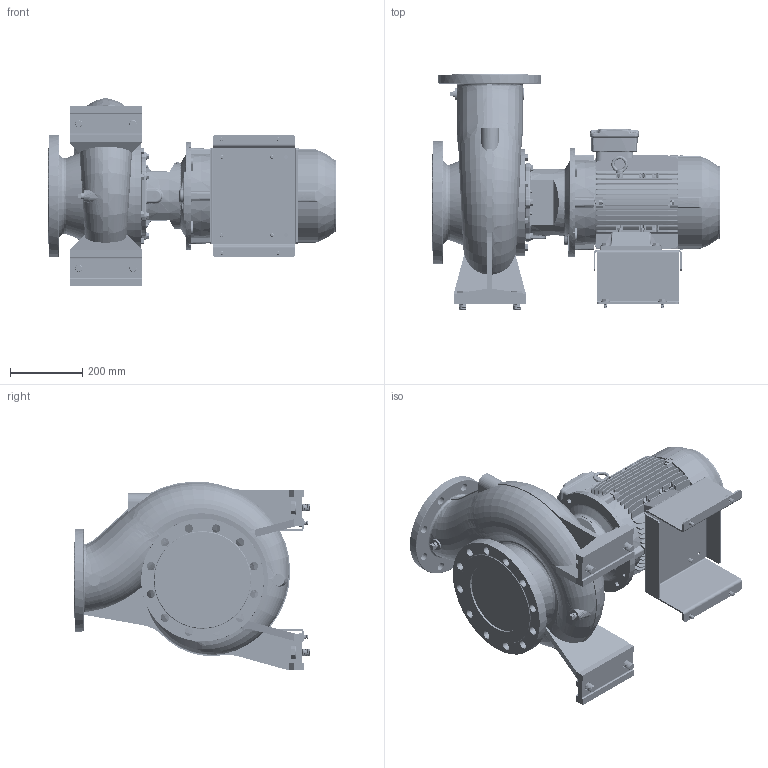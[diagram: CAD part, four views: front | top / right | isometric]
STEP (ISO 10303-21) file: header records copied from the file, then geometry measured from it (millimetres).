
FILE_DESCRIPTION (( 'STEP AP214' ), '1' );
FILE_NAME ('GSD4 150-200_5.5_(132S)_W21.STEP', '2026-07-01T02:52:04', ( '' ), ( '' ), 'SwSTEP 2.0', 'SolidWorks 2024', '' );
FILE_SCHEMA (( 'AUTOMOTIVE_DESIGN' ));
Length unit declared in the file: millimetre
Products named in the file (12): Parametric bolt and washer_SFT-A249B; 150-200-132S_ﾃﾞﾌｫﾙﾄ; Parametric bolt_SFT-A249B; Parametric bolt and washer_SFT-A403B; Parametric bolt and washer_SFT-A253B; Parametric bolt_SFT-A253B; Parametric Flat Washer_M20; 132S ALIE3_W21T_B35; 140_178 x 148 BP - CGSDA-5246; GSD4 150-200_5.5_(132S)_W21; Parametric bolt_SFT-A403B; Parametric Flat Washer_M10
Assembly tree (21 placements, depth 3):
  GSD4 150-200_5.5_(132S)_W21
    150-200-132S_ﾃﾞﾌｫﾙﾄ
    140_178 x 148 BP - CGSDA-5246
    Parametric bolt and washer_SFT-A403B  x4
      Parametric bolt_SFT-A403B
      Parametric Flat Washer_M20
    Parametric bolt and washer_SFT-A249B  x4
      Parametric bolt_SFT-A249B
      Parametric Flat Washer_M10
    Parametric bolt and washer_SFT-A253B  x4
      Parametric bolt_SFT-A253B
      Parametric Flat Washer_M10
    132S ALIE3_W21T_B35
Bounding box: 796.75 x 652 x 522.29 mm (x, y, z)
Volume: 56558047.8 mm3; surface area: 2942090.8 mm2
Topology: 37 solids, 37 shells, 4986 faces, 12842 edges, 8269 vertices
Faces by surface type: plane 2943, cylinder 1190, bspline 287, torus 269, cone 265, sphere 32
Entity records: 191601 total; most frequent: CARTESIAN_POINT 85147, ORIENTED_EDGE 22856, DIRECTION 20641, EDGE_CURVE 11428, VECTOR 7649, LINE 7649, VERTEX_POINT 7360, AXIS2_PLACEMENT_3D 6496
